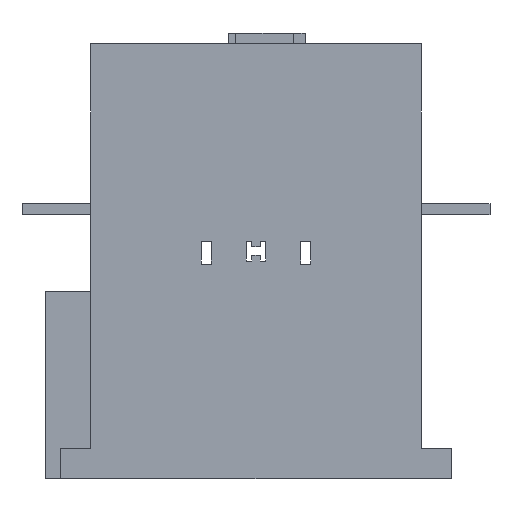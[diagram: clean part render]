
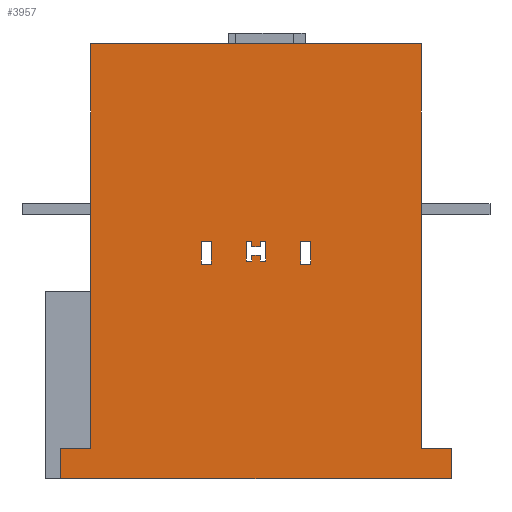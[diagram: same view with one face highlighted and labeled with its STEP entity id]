
A CAD part, front view. The second image highlights one B-rep face of the part: STEP entity #3957.
In plain terms, the highlighted planar face has unit normal (0, -1, 0).
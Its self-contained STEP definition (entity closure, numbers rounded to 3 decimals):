
#1047=CARTESIAN_POINT('',(3.6,-73.5,7.35));
#1048=VERTEX_POINT('',#1047);
#1055=CARTESIAN_POINT('',(1.6,-73.5,7.35));
#1056=VERTEX_POINT('',#1055);
#1057=CARTESIAN_POINT('',(1.6,-73.5,7.35));
#1058=DIRECTION('',(1.0,0.0,0.0));
#1059=VECTOR('',#1058,2.);
#1060=LINE('',#1057,#1059);
#1061=EDGE_CURVE('',#1056,#1048,#1060,.T.);
#1086=CARTESIAN_POINT('',(1.6,-73.5,5.3));
#1087=VERTEX_POINT('',#1086);
#1088=CARTESIAN_POINT('',(1.6,-73.5,5.3));
#1089=DIRECTION('',(0.0,0.0,1.0));
#1090=VECTOR('',#1089,2.05);
#1091=LINE('',#1088,#1090);
#1092=EDGE_CURVE('',#1087,#1056,#1091,.T.);
#1117=CARTESIAN_POINT('',(-1.6,-73.5,5.3));
#1118=VERTEX_POINT('',#1117);
#1119=CARTESIAN_POINT('',(-1.6,-73.5,5.3));
#1120=DIRECTION('',(1.0,0.0,0.0));
#1121=VECTOR('',#1120,3.2);
#1122=LINE('',#1119,#1121);
#1123=EDGE_CURVE('',#1118,#1087,#1122,.T.);
#1148=CARTESIAN_POINT('',(-1.6,-73.5,7.35));
#1149=VERTEX_POINT('',#1148);
#1150=CARTESIAN_POINT('',(-1.6,-73.5,7.35));
#1151=DIRECTION('',(0.0,0.0,-1.0));
#1152=VECTOR('',#1151,2.05);
#1153=LINE('',#1150,#1152);
#1154=EDGE_CURVE('',#1149,#1118,#1153,.T.);
#1179=CARTESIAN_POINT('',(-3.6,-73.5,7.35));
#1180=VERTEX_POINT('',#1179);
#1181=CARTESIAN_POINT('',(-3.6,-73.5,7.35));
#1182=DIRECTION('',(1.0,0.0,0.0));
#1183=VECTOR('',#1182,2.);
#1184=LINE('',#1181,#1183);
#1185=EDGE_CURVE('',#1180,#1149,#1184,.T.);
#1210=CARTESIAN_POINT('',(-3.6,-73.5,0.1));
#1211=VERTEX_POINT('',#1210);
#1212=CARTESIAN_POINT('',(-3.6,-73.5,0.1));
#1213=DIRECTION('',(0.0,0.0,1.0));
#1214=VECTOR('',#1213,7.25);
#1215=LINE('',#1212,#1214);
#1216=EDGE_CURVE('',#1211,#1180,#1215,.T.);
#1241=CARTESIAN_POINT('',(-1.6,-73.5,0.1));
#1242=VERTEX_POINT('',#1241);
#1243=CARTESIAN_POINT('',(-1.6,-73.5,0.1));
#1244=DIRECTION('',(-1.0,0.0,0.0));
#1245=VECTOR('',#1244,2.);
#1246=LINE('',#1243,#1245);
#1247=EDGE_CURVE('',#1242,#1211,#1246,.T.);
#1272=CARTESIAN_POINT('',(-1.6,-73.5,2.15));
#1273=VERTEX_POINT('',#1272);
#1274=CARTESIAN_POINT('',(-1.6,-73.5,2.15));
#1275=DIRECTION('',(0.0,0.0,-1.0));
#1276=VECTOR('',#1275,2.05);
#1277=LINE('',#1274,#1276);
#1278=EDGE_CURVE('',#1273,#1242,#1277,.T.);
#1303=CARTESIAN_POINT('',(1.6,-73.5,2.15));
#1304=VERTEX_POINT('',#1303);
#1305=CARTESIAN_POINT('',(1.6,-73.5,2.15));
#1306=DIRECTION('',(-1.0,0.0,0.0));
#1307=VECTOR('',#1306,3.2);
#1308=LINE('',#1305,#1307);
#1309=EDGE_CURVE('',#1304,#1273,#1308,.T.);
#1334=CARTESIAN_POINT('',(1.6,-73.5,0.1));
#1335=VERTEX_POINT('',#1334);
#1336=CARTESIAN_POINT('',(1.6,-73.5,0.1));
#1337=DIRECTION('',(0.0,0.0,1.0));
#1338=VECTOR('',#1337,2.05);
#1339=LINE('',#1336,#1338);
#1340=EDGE_CURVE('',#1335,#1304,#1339,.T.);
#1365=CARTESIAN_POINT('',(3.6,-73.5,0.1));
#1366=VERTEX_POINT('',#1365);
#1367=CARTESIAN_POINT('',(3.6,-73.5,0.1));
#1368=DIRECTION('',(-1.0,0.0,0.0));
#1369=VECTOR('',#1368,2.);
#1370=LINE('',#1367,#1369);
#1371=EDGE_CURVE('',#1366,#1335,#1370,.T.);
#1394=CARTESIAN_POINT('',(3.6,-73.5,7.35));
#1395=DIRECTION('',(0.0,0.0,-1.0));
#1396=VECTOR('',#1395,7.25);
#1397=LINE('',#1394,#1396);
#1398=EDGE_CURVE('',#1048,#1366,#1397,.T.);
#1419=CARTESIAN_POINT('',(19.9,-73.5,7.3));
#1420=VERTEX_POINT('',#1419);
#1427=CARTESIAN_POINT('',(16.25,-73.5,7.3));
#1428=VERTEX_POINT('',#1427);
#1429=CARTESIAN_POINT('',(16.25,-73.5,7.3));
#1430=DIRECTION('',(1.0,0.0,0.0));
#1431=VECTOR('',#1430,3.65);
#1432=LINE('',#1429,#1431);
#1433=EDGE_CURVE('',#1428,#1420,#1432,.T.);
#1458=CARTESIAN_POINT('',(16.25,-73.5,-1.));
#1459=VERTEX_POINT('',#1458);
#1460=CARTESIAN_POINT('',(16.25,-73.5,-1.));
#1461=DIRECTION('',(0.0,0.0,1.0));
#1462=VECTOR('',#1461,8.3);
#1463=LINE('',#1460,#1462);
#1464=EDGE_CURVE('',#1459,#1428,#1463,.T.);
#1489=CARTESIAN_POINT('',(19.9,-73.5,-1.));
#1490=VERTEX_POINT('',#1489);
#1491=CARTESIAN_POINT('',(19.9,-73.5,-1.));
#1492=DIRECTION('',(-1.0,0.0,0.0));
#1493=VECTOR('',#1492,3.65);
#1494=LINE('',#1491,#1493);
#1495=EDGE_CURVE('',#1490,#1459,#1494,.T.);
#1518=CARTESIAN_POINT('',(19.9,-73.5,7.3));
#1519=DIRECTION('',(0.0,0.0,-1.0));
#1520=VECTOR('',#1519,8.3);
#1521=LINE('',#1518,#1520);
#1522=EDGE_CURVE('',#1420,#1490,#1521,.T.);
#1543=CARTESIAN_POINT('',(-16.25,-73.5,7.3));
#1544=VERTEX_POINT('',#1543);
#1551=CARTESIAN_POINT('',(-19.9,-73.5,7.3));
#1552=VERTEX_POINT('',#1551);
#1553=CARTESIAN_POINT('',(-19.9,-73.5,7.3));
#1554=DIRECTION('',(1.0,0.0,0.0));
#1555=VECTOR('',#1554,3.65);
#1556=LINE('',#1553,#1555);
#1557=EDGE_CURVE('',#1552,#1544,#1556,.T.);
#1582=CARTESIAN_POINT('',(-19.9,-73.5,-1.));
#1583=VERTEX_POINT('',#1582);
#1584=CARTESIAN_POINT('',(-19.9,-73.5,-1.));
#1585=DIRECTION('',(0.0,0.0,1.0));
#1586=VECTOR('',#1585,8.3);
#1587=LINE('',#1584,#1586);
#1588=EDGE_CURVE('',#1583,#1552,#1587,.T.);
#1613=CARTESIAN_POINT('',(-16.25,-73.5,-1.));
#1614=VERTEX_POINT('',#1613);
#1615=CARTESIAN_POINT('',(-16.25,-73.5,-1.));
#1616=DIRECTION('',(-1.0,0.0,0.0));
#1617=VECTOR('',#1616,3.65);
#1618=LINE('',#1615,#1617);
#1619=EDGE_CURVE('',#1614,#1583,#1618,.T.);
#1642=CARTESIAN_POINT('',(-16.25,-73.5,7.3));
#1643=DIRECTION('',(0.0,0.0,-1.0));
#1644=VECTOR('',#1643,8.3);
#1645=LINE('',#1642,#1644);
#1646=EDGE_CURVE('',#1544,#1614,#1645,.T.);
#3548=CARTESIAN_POINT('',(71.0,-73.5,-79.));
#3549=VERTEX_POINT('',#3548);
#3556=CARTESIAN_POINT('',(-71.0,-73.5,-79.));
#3557=VERTEX_POINT('',#3556);
#3558=CARTESIAN_POINT('',(71.0,-73.5,-79.));
#3559=DIRECTION('',(-1.0,0.0,0.0));
#3560=VECTOR('',#3559,142.0);
#3561=LINE('',#3558,#3560);
#3562=EDGE_CURVE('',#3549,#3557,#3561,.T.);
#3659=CARTESIAN_POINT('',(60.0,-73.5,-68.0));
#3660=VERTEX_POINT('',#3659);
#3667=CARTESIAN_POINT('',(71.0,-73.5,-68.0));
#3668=VERTEX_POINT('',#3667);
#3669=CARTESIAN_POINT('',(60.0,-73.5,-68.0));
#3670=DIRECTION('',(1.0,0.0,0.0));
#3671=VECTOR('',#3670,11.0);
#3672=LINE('',#3669,#3671);
#3673=EDGE_CURVE('',#3660,#3668,#3672,.T.);
#3705=CARTESIAN_POINT('',(60.0,-73.5,79.0));
#3706=VERTEX_POINT('',#3705);
#3713=CARTESIAN_POINT('',(60.0,-73.5,79.0));
#3714=DIRECTION('',(0.0,0.0,-1.0));
#3715=VECTOR('',#3714,147.0);
#3716=LINE('',#3713,#3715);
#3717=EDGE_CURVE('',#3706,#3660,#3716,.T.);
#3760=CARTESIAN_POINT('',(-60.0,-73.5,79.0));
#3761=VERTEX_POINT('',#3760);
#3768=CARTESIAN_POINT('',(-60.0,-73.5,79.0));
#3769=DIRECTION('',(1.0,0.0,0.0));
#3770=VECTOR('',#3769,120.0);
#3771=LINE('',#3768,#3770);
#3772=EDGE_CURVE('',#3761,#3706,#3771,.T.);
#3798=CARTESIAN_POINT('',(-60.0,-73.5,-68.0));
#3799=VERTEX_POINT('',#3798);
#3806=CARTESIAN_POINT('',(-60.0,-73.5,-68.0));
#3807=DIRECTION('',(0.0,0.0,1.0));
#3808=VECTOR('',#3807,147.0);
#3809=LINE('',#3806,#3808);
#3810=EDGE_CURVE('',#3799,#3761,#3809,.T.);
#3855=CARTESIAN_POINT('',(-71.0,-73.5,-68.0));
#3856=VERTEX_POINT('',#3855);
#3863=CARTESIAN_POINT('',(-71.0,-73.5,-68.0));
#3864=DIRECTION('',(1.0,0.0,0.0));
#3865=VECTOR('',#3864,11.0);
#3866=LINE('',#3863,#3865);
#3867=EDGE_CURVE('',#3856,#3799,#3866,.T.);
#3884=CARTESIAN_POINT('',(-71.0,-73.5,-79.));
#3885=DIRECTION('',(0.0,0.0,1.0));
#3886=VECTOR('',#3885,11.);
#3887=LINE('',#3884,#3886);
#3888=EDGE_CURVE('',#3557,#3856,#3887,.T.);
#3906=CARTESIAN_POINT('',(71.0,-73.5,-68.0));
#3907=DIRECTION('',(0.0,0.0,-1.0));
#3908=VECTOR('',#3907,11.);
#3909=LINE('',#3906,#3908);
#3910=EDGE_CURVE('',#3668,#3549,#3909,.T.);
#3916=CARTESIAN_POINT('',(0.,-73.5,-5.39));
#3917=DIRECTION('',(0.0,1.0,0.0));
#3918=DIRECTION('',(0.0,0.0,1.0));
#3919=AXIS2_PLACEMENT_3D('',#3916,#3917,#3918);
#3920=PLANE('',#3919);
#3921=ORIENTED_EDGE('',*,*,#3562,.F.);
#3922=ORIENTED_EDGE('',*,*,#3910,.F.);
#3923=ORIENTED_EDGE('',*,*,#3673,.F.);
#3924=ORIENTED_EDGE('',*,*,#3717,.F.);
#3925=ORIENTED_EDGE('',*,*,#3772,.F.);
#3926=ORIENTED_EDGE('',*,*,#3810,.F.);
#3927=ORIENTED_EDGE('',*,*,#3867,.F.);
#3928=ORIENTED_EDGE('',*,*,#3888,.F.);
#3929=EDGE_LOOP('',(#3921,#3922,#3923,#3924,#3925,#3926,#3927,#3928));
#3930=FACE_OUTER_BOUND('',#3929,.T.);
#3931=ORIENTED_EDGE('',*,*,#1247,.T.);
#3932=ORIENTED_EDGE('',*,*,#1216,.T.);
#3933=ORIENTED_EDGE('',*,*,#1185,.T.);
#3934=ORIENTED_EDGE('',*,*,#1154,.T.);
#3935=ORIENTED_EDGE('',*,*,#1123,.T.);
#3936=ORIENTED_EDGE('',*,*,#1092,.T.);
#3937=ORIENTED_EDGE('',*,*,#1061,.T.);
#3938=ORIENTED_EDGE('',*,*,#1398,.T.);
#3939=ORIENTED_EDGE('',*,*,#1371,.T.);
#3940=ORIENTED_EDGE('',*,*,#1340,.T.);
#3941=ORIENTED_EDGE('',*,*,#1309,.T.);
#3942=ORIENTED_EDGE('',*,*,#1278,.T.);
#3943=EDGE_LOOP('',(#3931,#3932,#3933,#3934,#3935,#3936,#3937,#3938,#3939,#3940,#3941,#3942));
#3944=FACE_BOUND('',#3943,.T.);
#3945=ORIENTED_EDGE('',*,*,#1495,.T.);
#3946=ORIENTED_EDGE('',*,*,#1464,.T.);
#3947=ORIENTED_EDGE('',*,*,#1433,.T.);
#3948=ORIENTED_EDGE('',*,*,#1522,.T.);
#3949=EDGE_LOOP('',(#3945,#3946,#3947,#3948));
#3950=FACE_BOUND('',#3949,.T.);
#3951=ORIENTED_EDGE('',*,*,#1619,.T.);
#3952=ORIENTED_EDGE('',*,*,#1588,.T.);
#3953=ORIENTED_EDGE('',*,*,#1557,.T.);
#3954=ORIENTED_EDGE('',*,*,#1646,.T.);
#3955=EDGE_LOOP('',(#3951,#3952,#3953,#3954));
#3956=FACE_BOUND('',#3955,.T.);
#3957=ADVANCED_FACE('',(#3930,#3944,#3950,#3956),#3920,.F.);
